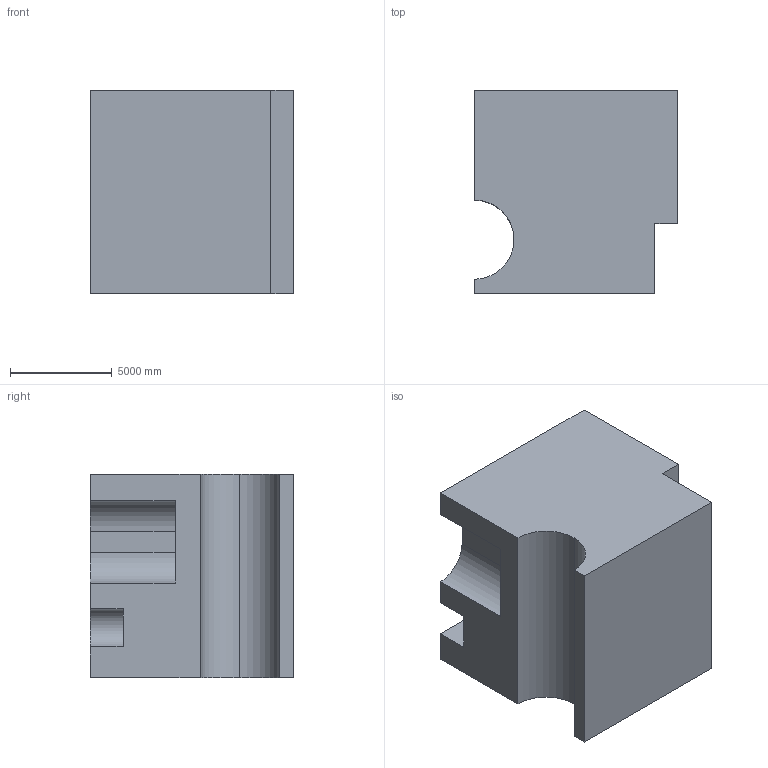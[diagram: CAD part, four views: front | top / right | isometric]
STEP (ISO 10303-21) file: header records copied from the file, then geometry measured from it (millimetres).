
FILE_DESCRIPTION (( 'STEP AP203' ), '1' );
FILE_NAME ('1377.STEP', '2022-08-18T14:07:46', ( 'user' ), ( '' ), 'SwSTEP 2.0', 'SolidWorks 2021', '' );
FILE_SCHEMA (( 'CONFIG_CONTROL_DESIGN' ));
Length unit declared in the file: centimetre
Products named in the file (1): 1377
Bounding box: 10000 x 10000 x 10000 mm (x, y, z)
Volume: 872268025849.6 mm3; surface area: 617386739.6 mm2
Topology: 1 solids, 1 shells, 19 faces, 51 edges, 34 vertices
Faces by surface type: plane 14, cylinder 5
Entity records: 672 total; most frequent: CARTESIAN_POINT 105, ORIENTED_EDGE 102, DIRECTION 101, EDGE_CURVE 51, VECTOR 41, LINE 41, VERTEX_POINT 34, AXIS2_PLACEMENT_3D 30
